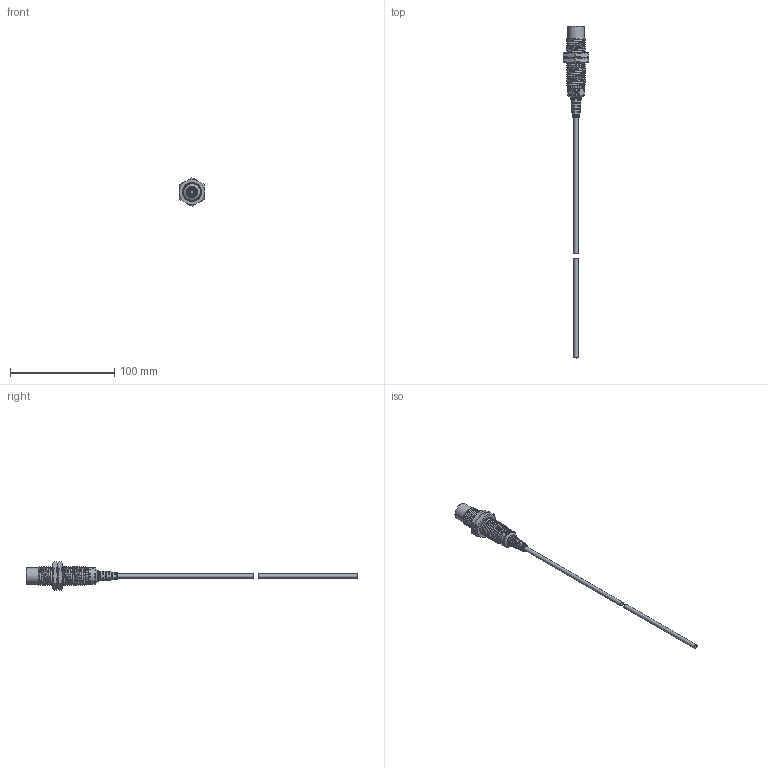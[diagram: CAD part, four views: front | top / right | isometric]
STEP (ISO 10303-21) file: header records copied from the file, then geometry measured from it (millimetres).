
FILE_DESCRIPTION(/* description */ (''),/* implementation_level */ '2;1');
FILE_NAME(/* name */ 'F3C-18KN08-N',/* time_stamp */ '2020-06-12T18:00:25+08:00',/* author */ (''),/* organization */ (''),/* preprocessor_version */ 'ST-DEVELOPER v9',/* originating_system */ 'UGS - NX 4.0',/* authorisation */ '');
FILE_SCHEMA (('CONFIG_CONTROL_DESIGN'));
Length unit declared in the file: millimetre
Products named in the file (1): F3C-18KN08-N
Bounding box: 24 x 318.1 x 27.71 mm (x, y, z)
Volume: 21115.9 mm3; surface area: 17773.3 mm2
Topology: 6 solids, 7 shells, 340 faces, 1054 edges, 733 vertices
Faces by surface type: plane 169, cylinder 108, cone 33, bspline 22, torus 8
Full cylindrical faces by diameter (mm): 4 x2, 4.4 x1, 4.5 x1, 12.7 x1, 13.3 x1, 14.9 x1, 15 x1, 15.1 x1, 16 x1, 16.1 x1, 16.5 x2
Entity records: 19774 total; most frequent: CARTESIAN_POINT 12218, ORIENTED_EDGE 2038, EDGE_CURVE 1019, B_SPLINE_CURVE_WITH_KNOTS 947, DIRECTION 746, VERTEX_POINT 729, EDGE_LOOP 416, AXIS2_PLACEMENT_3D 355
